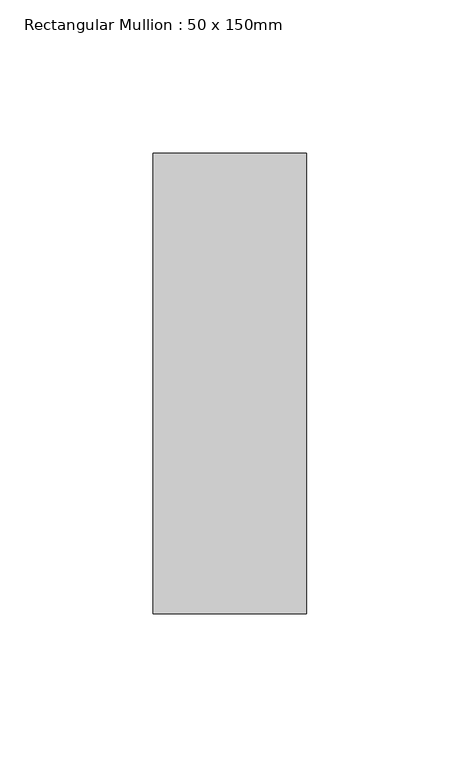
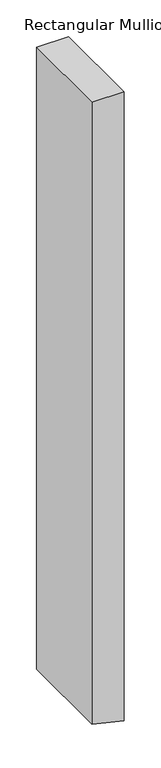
"""IFC4 building model written with IfcOpenShell, lengths in millimetres: member geometry, Rectangular Mullion : 50 x 150mm."""

import ifcopenshell
import ifcopenshell.guid

model = None  # the IFC model being written
_history = None  # IfcOwnerHistory: only IFC2X3 demands one
_inside = {}  # id of a spatial element -> (the spatial element, [elements in it])
_under = {}  # id of a project, library or spatial element -> (it, [spatial elements below it])
_declared = {}  # id of a project -> (the project, [libraries it declares])
_typed = {}  # id of a type object -> (the type object, [elements of that type])
_made_of = {}  # id of a material, layer set ... -> (it, [elements and type objects made of it])


def new_model(schema):
    """Start an empty IFC model of exactly this schema.

    Asked for "IFC4X3", IfcOpenShell would pick the latest addendum, in which some entities
    have other attributes; the version numbers below select the first issue.
    IFC2X3 requires an IfcOwnerHistory on every rooted entity: one is made here for all.
    """
    global model, _history
    if schema == "IFC4X3":
        model = ifcopenshell.file(schema_version=(4, 3, 0, 0))
    else:
        model = ifcopenshell.file(schema=schema)
    _inside.clear()
    _under.clear()
    _declared.clear()
    _typed.clear()
    _made_of.clear()
    _history = None
    if model.schema == "IFC2X3":
        org = make("IfcOrganization", Name="unknown")
        user = make(
            "IfcPersonAndOrganization",
            ThePerson=make("IfcPerson", FamilyName="unknown"),
            TheOrganization=org,
        )
        app = make(
            "IfcApplication",
            ApplicationDeveloper=org,
            Version="unknown",
            ApplicationFullName="unknown",
            ApplicationIdentifier="unknown",
        )
        _history = make(
            "IfcOwnerHistory",
            OwningUser=user,
            OwningApplication=app,
            ChangeAction="ADDED",
            CreationDate=0,
        )
    return model


def make(cls, **values):
    """One entity of the class cls with the attributes given. An attribute that is None is left unset."""
    return model.create_entity(
        cls, **{name: value for name, value in values.items() if value is not None}
    )


def rooted(cls, **values):
    """An entity with a GlobalId (a new one), such as an element, a storey or a relation."""
    return make(cls, GlobalId=ifcopenshell.guid.new(), OwnerHistory=_history, **values)


def si_unit(unit_type, name, prefix=None):
    """IfcSIUnit, for example si_unit("LENGTHUNIT", "METRE", prefix="MILLI")."""
    return make("IfcSIUnit", UnitType=unit_type, Prefix=prefix, Name=name)


def assignment(units):
    """IfcUnitAssignment: the units of a project."""
    return None if units is None else make("IfcUnitAssignment", Units=units)


def point(xyz):
    """IfcCartesianPoint."""
    return None if xyz is None else make("IfcCartesianPoint", Coordinates=xyz)


def direction(xyz):
    """IfcDirection."""
    return None if xyz is None else make("IfcDirection", DirectionRatios=xyz)


def frame(location, z_axis=None, x_axis=None):
    """IfcAxis2Placement3D, a coordinate frame: its origin and axes. An axis left out is left unset."""
    return make(
        "IfcAxis2Placement3D",
        Location=point(location),
        Axis=direction(z_axis),
        RefDirection=direction(x_axis),
    )


def origin():
    """The frame at (0, 0, 0) with its axes left unset."""
    return frame((0.0, 0.0, 0.0))


def place(relative_to, where):
    """IfcLocalPlacement: puts the frame where relative to a parent placement (None: the world)."""
    return make(
        "IfcLocalPlacement", PlacementRelTo=relative_to, RelativePlacement=where
    )


def context(
    kind, dimensions, precision=None, world=None, true_north=None, identifier=None
):
    """IfcGeometricRepresentationContext, for example the 3D "Model" context."""
    return make(
        "IfcGeometricRepresentationContext",
        ContextIdentifier=identifier,
        ContextType=kind,
        CoordinateSpaceDimension=dimensions,
        Precision=precision,
        WorldCoordinateSystem=world,
        TrueNorth=true_north,
    )


def project(units=None, contexts=None):
    """IfcProject with its units and contexts."""
    return rooted(
        "IfcProject",
        Name="project",
        RepresentationContexts=contexts,
        UnitsInContext=assignment(units),
    )


def spatial(cls, under=None, at=None, **own):
    """A site, building, storey or space (cls), placed at a placement, below another one or the project."""
    s = rooted(cls, ObjectPlacement=at, **own)
    if under is not None:
        _under.setdefault(under.id(), (under, []))[1].append(s)
    return s


def polyline(points):
    """IfcPolyline through the points."""
    return make("IfcPolyline", Points=[point(p) for p in points])


def outline(outer, holes=None, kind="AREA"):
    """IfcArbitraryClosedProfileDef: a profile drawn as a closed curve; with holes, ...WithVoids."""
    if holes is None:
        return make("IfcArbitraryClosedProfileDef", ProfileType=kind, OuterCurve=outer)
    return make(
        "IfcArbitraryProfileDefWithVoids",
        ProfileType=kind,
        OuterCurve=outer,
        InnerCurves=holes,
    )


def extrude(swept, where, along, depth):
    """IfcExtrudedAreaSolid: the profile swept, set in the frame where, extruded along a direction by depth."""
    return make(
        "IfcExtrudedAreaSolid",
        SweptArea=swept,
        Position=where,
        ExtrudedDirection=direction(along),
        Depth=depth,
    )


def shape(context_of_items, identifier, shape_type, items):
    """IfcShapeRepresentation: the items that make up one representation, for example the "Body"."""
    return make(
        "IfcShapeRepresentation",
        ContextOfItems=context_of_items,
        RepresentationIdentifier=identifier,
        RepresentationType=shape_type,
        Items=items,
    )


def source(mapping_origin, context_of_items, identifier, shape_type, items):
    """IfcRepresentationMap: a shape defined once, which mapped items show again and again."""
    return make(
        "IfcRepresentationMap",
        MappingOrigin=mapping_origin,
        MappedRepresentation=shape(context_of_items, identifier, shape_type, items),
    )


def transform(
    local_origin,
    x_axis=None,
    y_axis=None,
    z_axis=None,
    scale=None,
    scale2=None,
    scale3=None,
    uniform=True,
):
    """IfcCartesianTransformationOperator3D, or its non-uniform kind. x_axis, y_axis, z_axis: its Axis1, 2, 3."""
    if uniform:
        return make(
            "IfcCartesianTransformationOperator3D",
            Axis1=direction(x_axis),
            Axis2=direction(y_axis),
            LocalOrigin=point(local_origin),
            Scale=scale,
            Axis3=direction(z_axis),
        )
    return make(
        "IfcCartesianTransformationOperator3DnonUniform",
        Axis1=direction(x_axis),
        Axis2=direction(y_axis),
        LocalOrigin=point(local_origin),
        Scale=scale,
        Axis3=direction(z_axis),
        Scale2=scale2,
        Scale3=scale3,
    )


def mapped(mapping_source, mapping_target):
    """IfcMappedItem: shows the shape of a source again, moved by a transform."""
    return make(
        "IfcMappedItem", MappingSource=mapping_source, MappingTarget=mapping_target
    )


def made_of(thing, what):
    """Note that an element or type object is made of a material, layer set ...; save() writes the relation."""
    if what is not None:
        _made_of.setdefault(what.id(), (what, []))[1].append(thing)
    return thing


def element(
    cls,
    number,
    at=None,
    inside=None,
    cuts=None,
    type_object=None,
    material=None,
    context=None,
    identifier="Body",
    shape_type=None,
    held_by="IfcProductDefinitionShape",
    body=None,
    shapes=None,
    **own,
):
    """One element of the class cls, such as IfcWall. Its Tag is "e" and its number.

    at: its placement. inside: the storey or other place that contains it. cuts: it is an
    opening in that element (IfcRelVoidsElement). A single representation is given by context,
    identifier, shape_type and body (its items); several are given by shapes. held_by: the class
    of the entity that holds the representations. save() writes the other relations.
    """
    e = rooted(cls, Tag="e%d" % number, ObjectPlacement=at, **own)
    if body is not None:
        shapes = [shape(context, identifier, shape_type, body)]
    if shapes is not None:
        e.Representation = make(held_by, Representations=shapes)
    if inside is not None:
        _inside.setdefault(inside.id(), (inside, []))[1].append(e)
    if cuts is not None:
        rooted(
            "IfcRelVoidsElement", RelatingBuildingElement=cuts, RelatedOpeningElement=e
        )
    if type_object is not None:
        _typed.setdefault(type_object.id(), (type_object, []))[1].append(e)
    return made_of(e, material)


def aggregate(whole, parts):
    """IfcRelAggregates: a whole, such as a stair, and the parts it consists of."""
    return rooted("IfcRelAggregates", RelatingObject=whole, RelatedObjects=parts)


def save(model, path):
    """Write the relations noted so far, then the file.

    IfcRelAggregates (storeys below a building ...), IfcRelContainedInSpatialStructure (elements
    in a storey), IfcRelDefinesByType, IfcRelAssociatesMaterial and IfcRelDeclares: one each for
    every whole, place, type object, material and project.
    """
    for whole, parts in _under.values():
        aggregate(whole, parts)
    for where, things in _inside.values():
        rooted(
            "IfcRelContainedInSpatialStructure",
            RelatedElements=things,
            RelatingStructure=where,
        )
    for kind, things in _typed.values():
        rooted("IfcRelDefinesByType", RelatedObjects=things, RelatingType=kind)
    for what, things in _made_of.values():
        rooted("IfcRelAssociatesMaterial", RelatedObjects=things, RelatingMaterial=what)
    for by, libraries in _declared.values():
        rooted("IfcRelDeclares", RelatingContext=by, RelatedDefinitions=libraries)
    model.write(path)


def rectangular_mullion_50_x_150mm_f8fee7f6(model_context):
    return source(origin(), model_context, "Body", "SweptSolid", [
        extrude(outline(polyline([(0.0, 25.0), (0.0, -25.0), (-1028.7958483, -25.0), (-1036.9246803, 11.0099035), (-1040.0827877, 25.0), (0.0, 25.0)])), frame((0.0, -75.0, 0.0), z_axis=(0.0, 1.0, 0.0), x_axis=(0.0, 0.0, 1.0)), (0.0, 0.0, 1.0), 150.0),
    ])


if __name__ == "__main__":
    model = new_model("IFC4")
    model_context = context("Model", 3, world=origin())
    ifc_project = project(units=[si_unit("LENGTHUNIT", "METRE", prefix="MILLI")], contexts=[model_context])
    site = spatial("IfcSite", under=ifc_project)
    building = spatial("IfcBuilding", under=site)
    placement = place(None, origin())
    rectangular_mullion_50_x_150mm_shape = rectangular_mullion_50_x_150mm_f8fee7f6(model_context)
    element("IfcMember", 1, ObjectType="Rectangular Mullion : 50 x 150mm", at=placement, inside=building, context=model_context, shape_type="MappedRepresentation", body=[
        mapped(rectangular_mullion_50_x_150mm_shape, transform((0.0, 0.0, 0.0), x_axis=(1.0, 0.0, 0.0), y_axis=(0.0, 1.0, 0.0), z_axis=(0.0, 0.0, 1.0))),
    ])
    save(model, "model.ifc")
